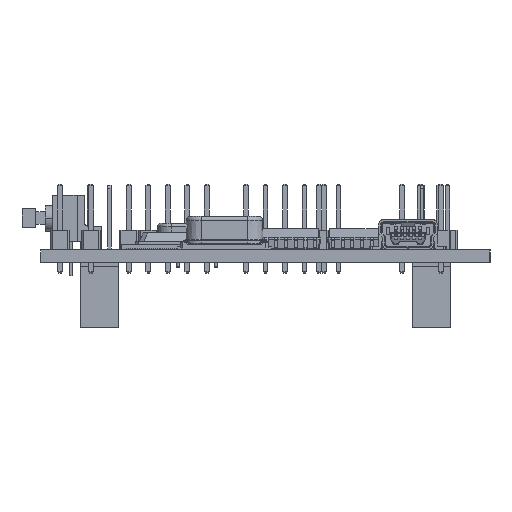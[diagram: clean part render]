
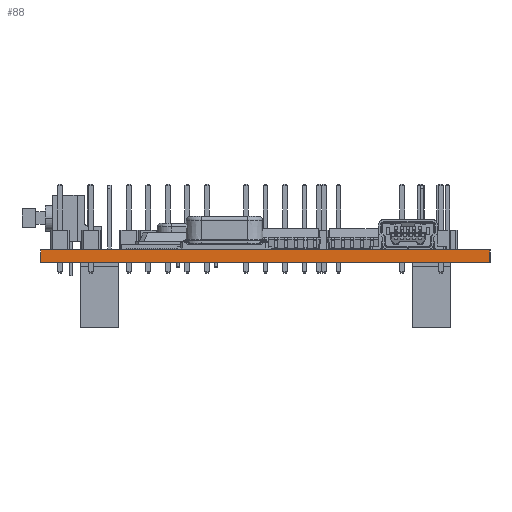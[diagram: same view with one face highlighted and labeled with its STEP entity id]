
A CAD part, left-side view. The second image highlights one B-rep face of the part: STEP entity #88.
In plain terms, the highlighted planar face has unit normal (-1, 0, 0).
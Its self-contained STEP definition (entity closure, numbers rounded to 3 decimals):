
#32 = VERTEX_POINT('',#33);
#33 = CARTESIAN_POINT('',(-31.747,-6.31,8.525));
#39 = EDGE_CURVE('',#40,#32,#42,.T.);
#40 = VERTEX_POINT('',#41);
#41 = CARTESIAN_POINT('',(-31.747,-6.31,10.125));
#42 = LINE('',#43,#44);
#43 = CARTESIAN_POINT('',(-31.747,-6.31,10.125));
#44 = VECTOR('',#45,1.);
#45 = DIRECTION('',(0.,0.,-1.));
#88 = ADVANCED_FACE('',(#89),#114,.F.);
#89 = FACE_BOUND('',#90,.F.);
#90 = EDGE_LOOP('',(#91,#92,#100,#108));
#91 = ORIENTED_EDGE('',*,*,#39,.T.);
#92 = ORIENTED_EDGE('',*,*,#93,.T.);
#93 = EDGE_CURVE('',#32,#94,#96,.T.);
#94 = VERTEX_POINT('',#95);
#95 = CARTESIAN_POINT('',(-31.747,52.11,8.525));
#96 = LINE('',#97,#98);
#97 = CARTESIAN_POINT('',(-31.747,-6.31,8.525));
#98 = VECTOR('',#99,1.);
#99 = DIRECTION('',(0.,1.,0.));
#100 = ORIENTED_EDGE('',*,*,#101,.F.);
#101 = EDGE_CURVE('',#102,#94,#104,.T.);
#102 = VERTEX_POINT('',#103);
#103 = CARTESIAN_POINT('',(-31.747,52.11,10.125));
#104 = LINE('',#105,#106);
#105 = CARTESIAN_POINT('',(-31.747,52.11,10.125));
#106 = VECTOR('',#107,1.);
#107 = DIRECTION('',(0.,0.,-1.));
#108 = ORIENTED_EDGE('',*,*,#109,.F.);
#109 = EDGE_CURVE('',#40,#102,#110,.T.);
#110 = LINE('',#111,#112);
#111 = CARTESIAN_POINT('',(-31.747,-6.31,10.125));
#112 = VECTOR('',#113,1.);
#113 = DIRECTION('',(0.,1.,0.));
#114 = PLANE('',#115);
#115 = AXIS2_PLACEMENT_3D('',#116,#117,#118);
#116 = CARTESIAN_POINT('',(-31.747,-6.31,10.125));
#117 = DIRECTION('',(1.,0.,0.));
#118 = DIRECTION('',(0.,1.,0.));
